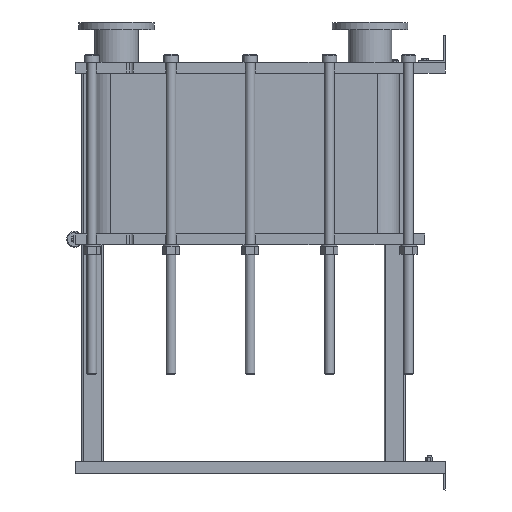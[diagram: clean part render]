
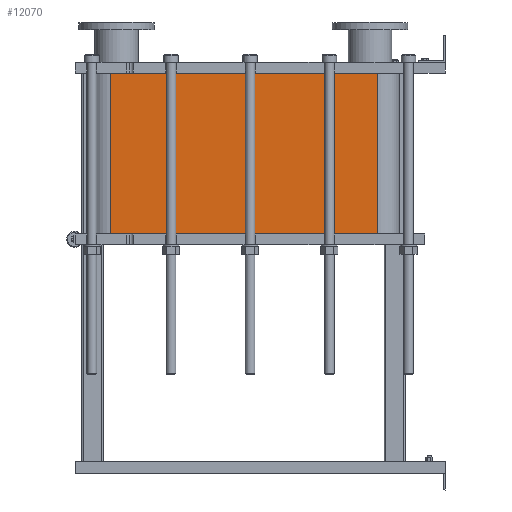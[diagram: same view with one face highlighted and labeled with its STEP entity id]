
A CAD part, left-side view. The second image highlights one B-rep face of the part: STEP entity #12070.
In plain terms, the highlighted planar face has unit normal (-1, 0, 0).
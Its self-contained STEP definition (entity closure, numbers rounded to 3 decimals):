
#1064=LINE('',#21140,#2164);
#1065=LINE('',#21144,#2165);
#1066=LINE('',#21146,#2166);
#1067=LINE('',#21147,#2167);
#2164=VECTOR('',#15790,10.);
#2165=VECTOR('',#15795,10.);
#2166=VECTOR('',#15796,10.);
#2167=VECTOR('',#15797,10.);
#3304=FACE_OUTER_BOUND('',#4091,.T.);
#4091=EDGE_LOOP('',(#9793,#9794,#9795,#9796));
#5677=VERTEX_POINT('',#21137);
#5678=VERTEX_POINT('',#21139);
#5679=VERTEX_POINT('',#21143);
#5680=VERTEX_POINT('',#21145);
#7118=EDGE_CURVE('',#5678,#5677,#1064,.T.);
#7120=EDGE_CURVE('',#5677,#5679,#1065,.T.);
#7121=EDGE_CURVE('',#5680,#5679,#1066,.T.);
#7122=EDGE_CURVE('',#5680,#5678,#1067,.T.);
#9793=ORIENTED_EDGE('',*,*,#7120,.T.);
#9794=ORIENTED_EDGE('',*,*,#7121,.F.);
#9795=ORIENTED_EDGE('',*,*,#7122,.T.);
#9796=ORIENTED_EDGE('',*,*,#7118,.T.);
#11441=PLANE('',#13191);
#12070=ADVANCED_FACE('',(#3304),#11441,.T.);
#13191=AXIS2_PLACEMENT_3D('',#21142,#15793,#15794);
#15790=DIRECTION('',(0.,0.,-1.));
#15793=DIRECTION('center_axis',(-1.,0.,0.));
#15794=DIRECTION('ref_axis',(0.,1.,0.));
#15795=DIRECTION('',(0.,-1.,0.));
#15796=DIRECTION('',(0.,0.,-1.));
#15797=DIRECTION('',(0.,1.,0.));
#21137=CARTESIAN_POINT('',(-248.152,1243.818,-596.85));
#21139=CARTESIAN_POINT('',(-248.152,1243.818,0.));
#21140=CARTESIAN_POINT('',(-248.152,1243.818,0.));
#21142=CARTESIAN_POINT('Origin',(-248.152,251.818,0.));
#21143=CARTESIAN_POINT('',(-248.152,251.818,-596.85));
#21144=CARTESIAN_POINT('',(-248.152,499.818,-596.85));
#21145=CARTESIAN_POINT('',(-248.152,251.818,0.));
#21146=CARTESIAN_POINT('',(-248.152,251.818,0.));
#21147=CARTESIAN_POINT('',(-248.152,251.818,0.));
